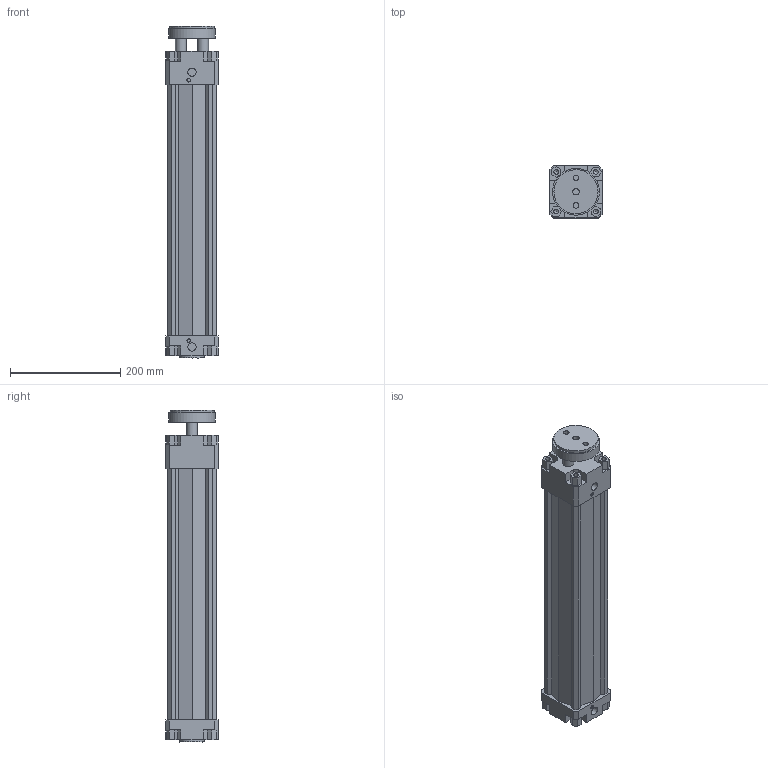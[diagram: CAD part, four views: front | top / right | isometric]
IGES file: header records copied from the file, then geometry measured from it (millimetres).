
Global section: file name: 134#_080_0400_01; native system: Autodesk Inventor 2014; preprocessor: unknown; author: A. Manieri; date: 20161006.165227; units: millimetre
Bounding box: 95 x 95 x 603 mm (x, y, z)
Volume: 2316403.8 mm3; surface area: 471394.2 mm2
Topology: 2 solids, 2 shells, 180 faces, 491 edges, 335 vertices
Faces by surface type: bspline 180
